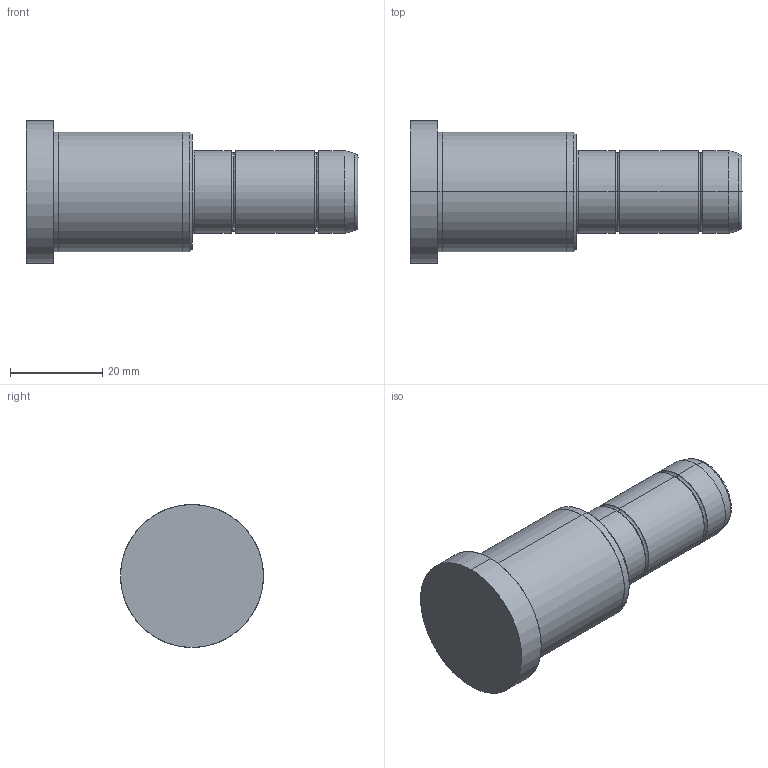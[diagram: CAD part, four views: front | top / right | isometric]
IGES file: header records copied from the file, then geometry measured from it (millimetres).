
Start section: SolidWorks IGES file using analytic representation for surfaces
Global section: file name: C:\Documents and Settings\kalite-mail\Desktop\IGS\D02\18\D02 - 18x36x36.IGS; native system: SolidWorks 2008; preprocessor: SolidWorks 2008; author: kalite-mail; date: 080616.150619; units: millimetre
Bounding box: 72 x 31 x 31 mm (x, y, z)
Surface area: 6548.2 mm2 (no closed solid volume)
Topology: 0 solids, 0 shells, 36 faces, 504 edges, 504 vertices
Faces by surface type: bspline 18, revolution 18
